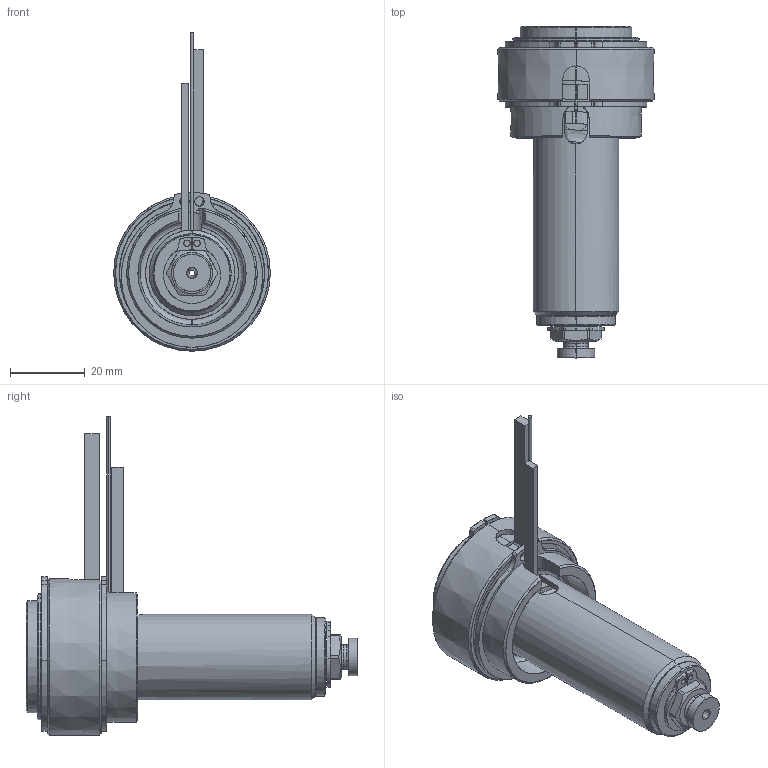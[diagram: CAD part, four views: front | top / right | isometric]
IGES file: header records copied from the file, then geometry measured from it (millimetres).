
Start section: SolidWorks IGES file using analytic representation for surfaces
Global section: file name: C:\Users\luca.EMPAD\Desktop\TEM\UGBE3501-M-A-5 [Ød-1.5 P-0 ØC-6.0].IGS; native system: SolidWorks 2012; preprocessor: SolidWorks 2012; author: luca; date: 120330.135559; units: millimetre
Bounding box: 42 x 89 x 85.4 mm (x, y, z)
Surface area: 26688.2 mm2 (no closed solid volume)
Topology: 0 solids, 0 shells, 184 faces, 3318 edges, 3318 vertices
Faces by surface type: revolution 116, bspline 68
